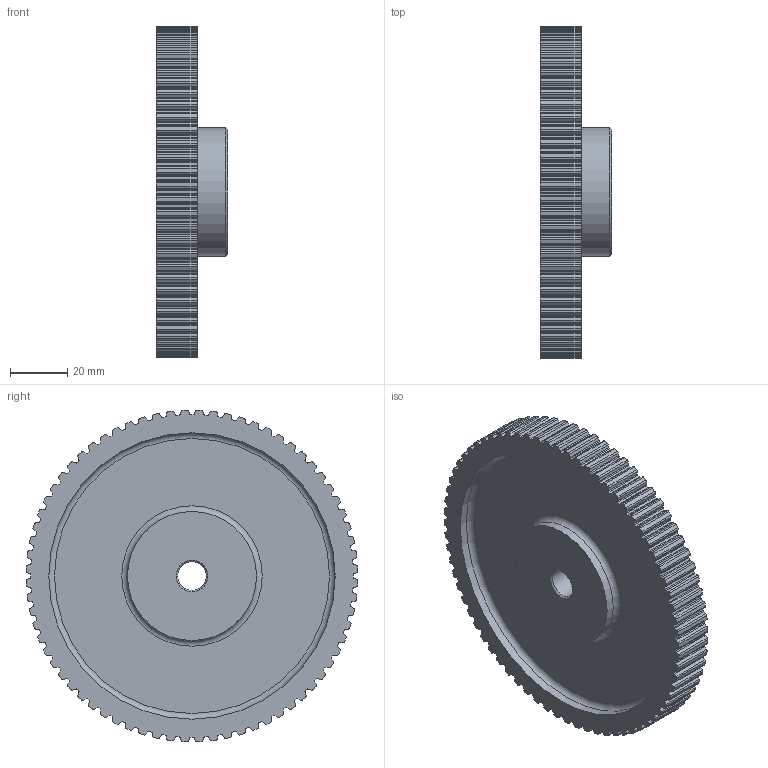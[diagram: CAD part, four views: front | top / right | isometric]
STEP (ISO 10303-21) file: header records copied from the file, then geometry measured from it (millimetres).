
FILE_DESCRIPTION(/* description */ ('PULEGGE 72 XL 037'),/* implementation_level */ '2;1');
FILE_NAME(/* name */ 'w:\documenti\Disegni dwg\Catalogo\Pulegge\XL\037\stp (caricati)\42037172.stp',/* time_stamp */ '2023-06-08T11:04:25+02:00',/* author */ ('carlo.bersi'),/* organization */ (''),/* preprocessor_version */ 'ST-DEVELOPER v19',/* originating_system */ 'Autodesk Inventor 2023',/* authorisation */ '');
FILE_SCHEMA (('CONFIG_CONTROL_DESIGN'));
Length unit declared in the file: millimetre
Products named in the file (1): 42037172
Bounding box: 25 x 115.86 x 115.86 mm (x, y, z)
Volume: 100504.5 mm3; surface area: 33477.3 mm2
Topology: 1 solids, 1 shells, 594 faces, 1761 edges, 1173 vertices
Faces by surface type: cylinder 365, plane 222, torus 4, cone 3
Full cylindrical faces by diameter (mm): 10 x1, 45 x2, 100 x2
Entity records: 20233 total; most frequent: DIRECTION 3696, CARTESIAN_POINT 3529, ORIENTED_EDGE 3522, EDGE_CURVE 1761, AXIS2_PLACEMENT_3D 1340, VERTEX_POINT 1173, LINE 1016, VECTOR 1016
